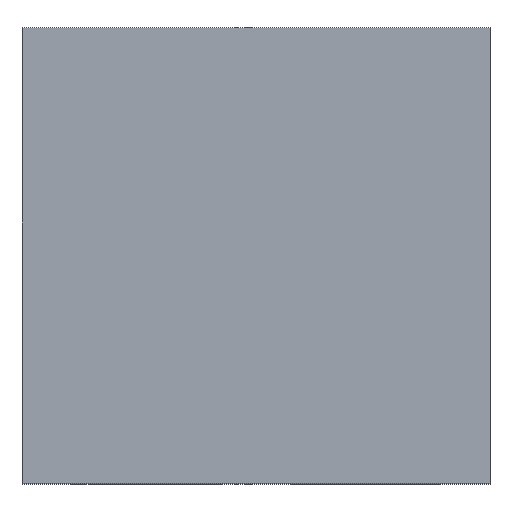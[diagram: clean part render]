
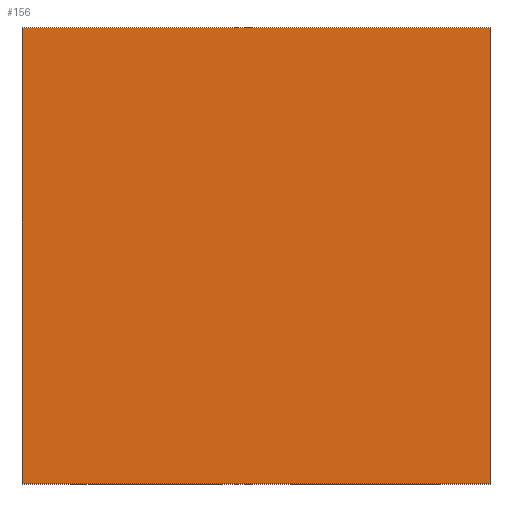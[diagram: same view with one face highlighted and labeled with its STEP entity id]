
A CAD part, top view. The second image highlights one B-rep face of the part: STEP entity #156.
In plain terms, the highlighted planar face has unit normal (0, 0, 1).
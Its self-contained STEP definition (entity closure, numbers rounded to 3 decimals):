
#24 = VERTEX_POINT('',#25);
#25 = CARTESIAN_POINT('',(-2.,-3.9,8.5));
#40 = VERTEX_POINT('',#41);
#41 = CARTESIAN_POINT('',(-2.,3.4,8.5));
#47 = EDGE_CURVE('',#24,#40,#48,.T.);
#48 = LINE('',#49,#50);
#49 = CARTESIAN_POINT('',(-2.,-3.9,8.5));
#50 = VECTOR('',#51,1.);
#51 = DIRECTION('',(-0.,1.,0.));
#70 = EDGE_CURVE('',#24,#71,#73,.T.);
#71 = VERTEX_POINT('',#72);
#72 = CARTESIAN_POINT('',(5.5,-3.9,8.5));
#73 = LINE('',#74,#75);
#74 = CARTESIAN_POINT('',(-2.,-3.9,8.5));
#75 = VECTOR('',#76,1.);
#76 = DIRECTION('',(1.,0.,-0.));
#156 = ADVANCED_FACE('',(#157),#175,.T.);
#157 = FACE_BOUND('',#158,.T.);
#158 = EDGE_LOOP('',(#159,#160,#161,#169));
#159 = ORIENTED_EDGE('',*,*,#47,.F.);
#160 = ORIENTED_EDGE('',*,*,#70,.T.);
#161 = ORIENTED_EDGE('',*,*,#162,.T.);
#162 = EDGE_CURVE('',#71,#163,#165,.T.);
#163 = VERTEX_POINT('',#164);
#164 = CARTESIAN_POINT('',(5.5,3.4,8.5));
#165 = LINE('',#166,#167);
#166 = CARTESIAN_POINT('',(5.5,-3.9,8.5));
#167 = VECTOR('',#168,1.);
#168 = DIRECTION('',(-0.,1.,0.));
#169 = ORIENTED_EDGE('',*,*,#170,.F.);
#170 = EDGE_CURVE('',#40,#163,#171,.T.);
#171 = LINE('',#172,#173);
#172 = CARTESIAN_POINT('',(-2.,3.4,8.5));
#173 = VECTOR('',#174,1.);
#174 = DIRECTION('',(1.,0.,-0.));
#175 = PLANE('',#176);
#176 = AXIS2_PLACEMENT_3D('',#177,#178,#179);
#177 = CARTESIAN_POINT('',(-2.,-3.9,8.5));
#178 = DIRECTION('',(0.,0.,1.));
#179 = DIRECTION('',(1.,0.,-0.));
